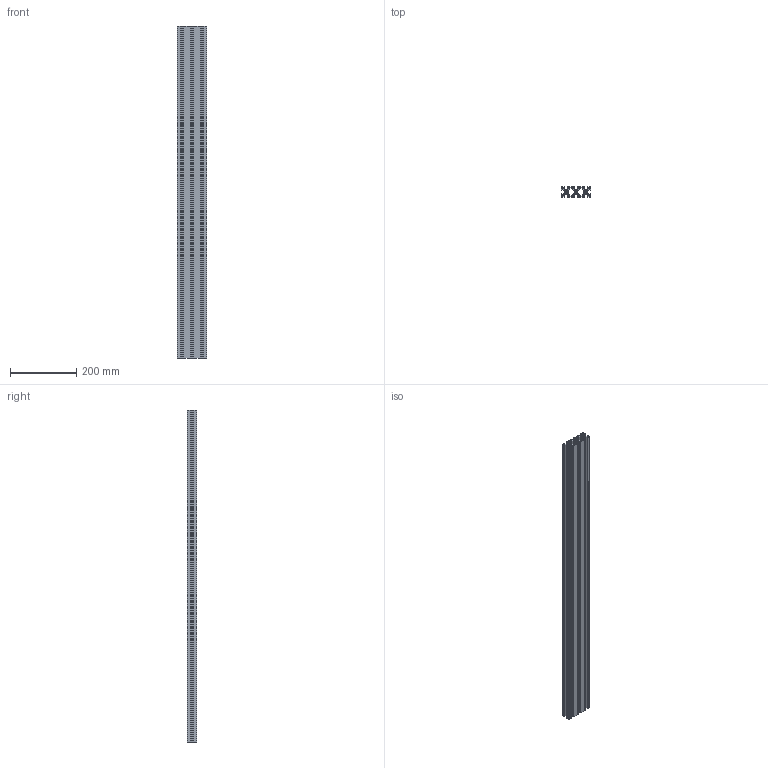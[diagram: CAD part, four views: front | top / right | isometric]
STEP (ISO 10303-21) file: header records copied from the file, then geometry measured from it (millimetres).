
FILE_DESCRIPTION (( 'STEP AP203' ), '1' );
FILE_NAME ('30X90 PROFÝL.STEP', '2016-04-14T08:03:03', ( '' ), ( '' ), 'SwSTEP 2.0', 'SolidWorks 2016', '' );
FILE_SCHEMA (( 'CONFIG_CONTROL_DESIGN' ));
Length unit declared in the file: millimetre
Products named in the file (1): 30X90 PROFÝL
Bounding box: 90 x 30 x 1000 mm (x, y, z)
Volume: 800972 mm3; surface area: 839472.7 mm2
Topology: 1 solids, 1 shells, 666 faces, 1992 edges, 1328 vertices
Faces by surface type: cylinder 352, plane 314
Entity records: 22753 total; most frequent: DIRECTION 4030, CARTESIAN_POINT 3987, ORIENTED_EDGE 3984, EDGE_CURVE 1992, AXIS2_PLACEMENT_3D 1371, VERTEX_POINT 1328, LINE 1288, VECTOR 1288
